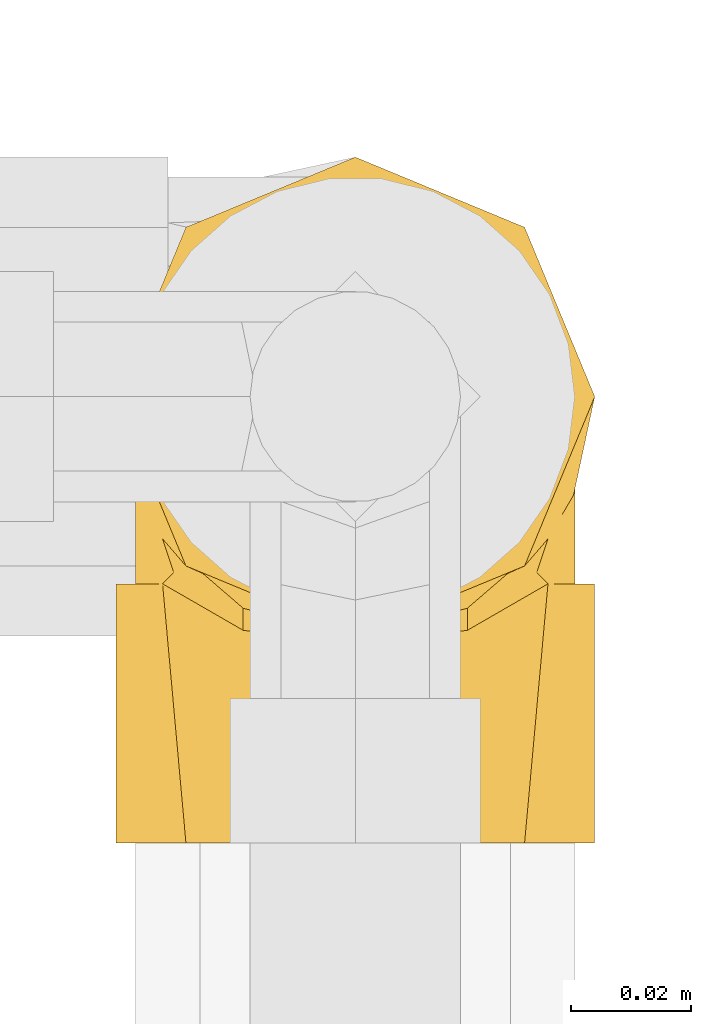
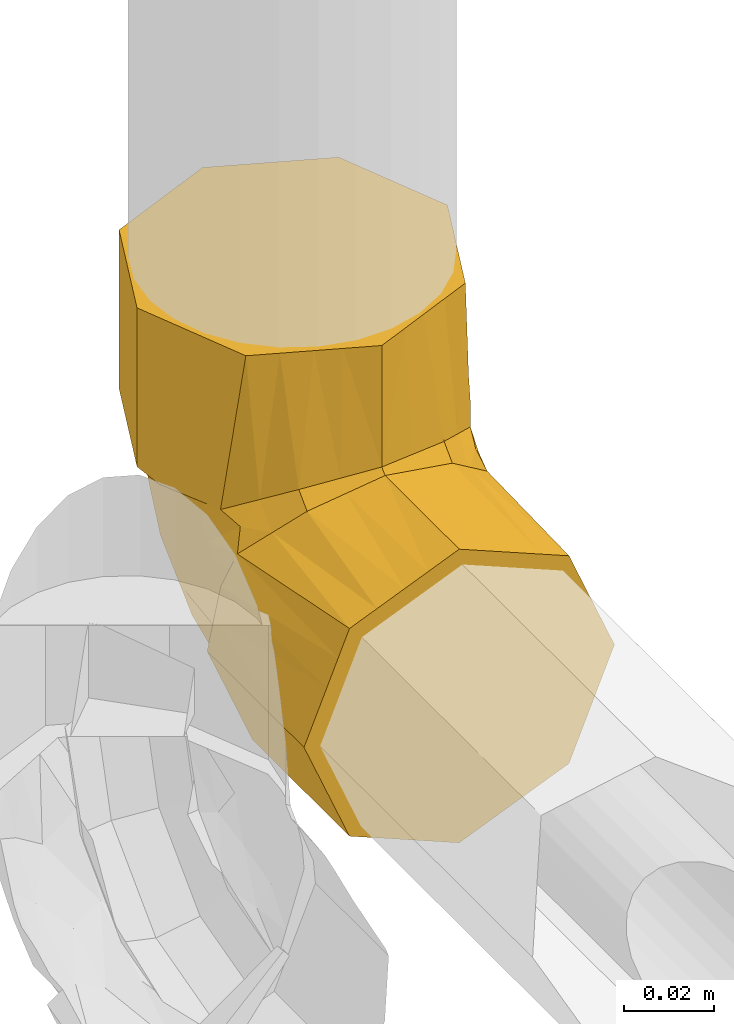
# One storey, part 269 of 652: 1 covering.
"""IFC2X3 building model written with IfcOpenShell, lengths in millimetres."""

import ifcopenshell
import ifcopenshell.guid

model = None  # the IFC model being written
_history = None  # IfcOwnerHistory: only IFC2X3 demands one
_inside = {}  # id of a spatial element -> (the spatial element, [elements in it])
_under = {}  # id of a project, library or spatial element -> (it, [spatial elements below it])
_declared = {}  # id of a project -> (the project, [libraries it declares])
_typed = {}  # id of a type object -> (the type object, [elements of that type])
_made_of = {}  # id of a material, layer set ... -> (it, [elements and type objects made of it])


def new_model(schema):
    """Start an empty IFC model of exactly this schema.

    Asked for "IFC4X3", IfcOpenShell would pick the latest addendum, in which some entities
    have other attributes; the version numbers below select the first issue.
    IFC2X3 requires an IfcOwnerHistory on every rooted entity: one is made here for all.
    """
    global model, _history
    if schema == "IFC4X3":
        model = ifcopenshell.file(schema_version=(4, 3, 0, 0))
    else:
        model = ifcopenshell.file(schema=schema)
    _inside.clear()
    _under.clear()
    _declared.clear()
    _typed.clear()
    _made_of.clear()
    _history = None
    if model.schema == "IFC2X3":
        org = make("IfcOrganization", Name="unknown")
        user = make(
            "IfcPersonAndOrganization",
            ThePerson=make("IfcPerson", FamilyName="unknown"),
            TheOrganization=org,
        )
        app = make(
            "IfcApplication",
            ApplicationDeveloper=org,
            Version="unknown",
            ApplicationFullName="unknown",
            ApplicationIdentifier="unknown",
        )
        _history = make(
            "IfcOwnerHistory",
            OwningUser=user,
            OwningApplication=app,
            ChangeAction="ADDED",
            CreationDate=0,
        )
    return model


def make(cls, **values):
    """One entity of the class cls with the attributes given. An attribute that is None is left unset."""
    return model.create_entity(
        cls, **{name: value for name, value in values.items() if value is not None}
    )


def entity(cls, *values):
    """Any entity or typed value of the class cls, its attributes in the order of the schema. None: left unset."""
    e = model.create_entity(cls)
    for i, value in enumerate(values):
        if value is not None:
            e[i] = value
    return e


def rooted(cls, **values):
    """An entity with a GlobalId (a new one), such as an element, a storey or a relation."""
    return make(cls, GlobalId=ifcopenshell.guid.new(), OwnerHistory=_history, **values)


def si_unit(unit_type, name, prefix=None):
    """IfcSIUnit, for example si_unit("LENGTHUNIT", "METRE", prefix="MILLI")."""
    return make("IfcSIUnit", UnitType=unit_type, Prefix=prefix, Name=name)


def converted_unit(unit_type, name, factor, base, dimensions=None, offset=None):
    """IfcConversionBasedUnit, such as the inch: factor (a typed value) times the base unit."""
    return make(
        "IfcConversionBasedUnit"
        if offset is None
        else "IfcConversionBasedUnitWithOffset",
        ConversionOffset=offset,
        Dimensions=None
        if dimensions is None
        else entity("IfcDimensionalExponents", *dimensions),
        UnitType=unit_type,
        Name=name,
        ConversionFactor=make(
            "IfcMeasureWithUnit", ValueComponent=factor, UnitComponent=base
        ),
    )


def assignment(units):
    """IfcUnitAssignment: the units of a project."""
    return None if units is None else make("IfcUnitAssignment", Units=units)


def point(xyz):
    """IfcCartesianPoint."""
    return None if xyz is None else make("IfcCartesianPoint", Coordinates=xyz)


def direction(xyz):
    """IfcDirection."""
    return None if xyz is None else make("IfcDirection", DirectionRatios=xyz)


def frame(location, z_axis=None, x_axis=None):
    """IfcAxis2Placement3D, a coordinate frame: its origin and axes. An axis left out is left unset."""
    return make(
        "IfcAxis2Placement3D",
        Location=point(location),
        Axis=direction(z_axis),
        RefDirection=direction(x_axis),
    )


def origin():
    """The frame at (0, 0, 0) with its axes left unset."""
    return frame((0.0, 0.0, 0.0))


def place(relative_to, where):
    """IfcLocalPlacement: puts the frame where relative to a parent placement (None: the world)."""
    return make(
        "IfcLocalPlacement", PlacementRelTo=relative_to, RelativePlacement=where
    )


def context(
    kind, dimensions, precision=None, world=None, true_north=None, identifier=None
):
    """IfcGeometricRepresentationContext, for example the 3D "Model" context."""
    return make(
        "IfcGeometricRepresentationContext",
        ContextIdentifier=identifier,
        ContextType=kind,
        CoordinateSpaceDimension=dimensions,
        Precision=precision,
        WorldCoordinateSystem=world,
        TrueNorth=true_north,
    )


def subcontext(parent, identifier, kind, view, scale=None):
    """IfcGeometricRepresentationSubContext, for example "Body" below "Model"."""
    return make(
        "IfcGeometricRepresentationSubContext",
        ContextIdentifier=identifier,
        ContextType=kind,
        ParentContext=parent,
        TargetScale=scale,
        TargetView=view,
    )


def project(units=None, contexts=None):
    """IfcProject with its units and contexts."""
    return rooted(
        "IfcProject",
        Name="project",
        RepresentationContexts=contexts,
        UnitsInContext=assignment(units),
    )


def spatial(cls, under=None, at=None, **own):
    """A site, building, storey or space (cls), placed at a placement, below another one or the project."""
    s = rooted(cls, ObjectPlacement=at, **own)
    if under is not None:
        _under.setdefault(under.id(), (under, []))[1].append(s)
    return s


def faces_of(points, faces, orient=None, outer=None):
    """IfcFace entities. A face is a list of loops; a loop is a list of indices into points, from 0.

    orient and outer hold one flag for each loop. By default every Orientation is true, the
    first loop of a face is its IfcFaceOuterBound and the others are IfcFaceBound.
    """
    made = []
    for i, loops in enumerate(faces):
        bounds = []
        for j, loop in enumerate(loops):
            is_outer = j == 0 if outer is None else outer[i][j]
            bounds.append(
                make(
                    "IfcFaceOuterBound" if is_outer else "IfcFaceBound",
                    Bound=make("IfcPolyLoop", Polygon=[points[k] for k in loop]),
                    Orientation=True if orient is None else orient[i][j],
                )
            )
        made.append(make("IfcFace", Bounds=bounds))
    return made


def faceted_brep(points, faces, orient=None, outer=None, voids=None):
    """IfcFacetedBrep: a solid bounded by flat faces; with voids (closed shells), ...WithVoids."""
    shared = [point(p) for p in points]
    hull = make("IfcClosedShell", CfsFaces=faces_of(shared, faces, orient, outer))
    if voids is None:
        return make("IfcFacetedBrep", Outer=hull)
    return make(
        "IfcFacetedBrepWithVoids",
        Outer=hull,
        Voids=[
            make(cls, CfsFaces=faces_of(shared, fs, o, b)) for cls, fs, o, b in voids
        ],
    )


def shape(context_of_items, identifier, shape_type, items):
    """IfcShapeRepresentation: the items that make up one representation, for example the "Body"."""
    return make(
        "IfcShapeRepresentation",
        ContextOfItems=context_of_items,
        RepresentationIdentifier=identifier,
        RepresentationType=shape_type,
        Items=items,
    )


def material(Name=None, Category=None):
    """IfcMaterial."""
    return make("IfcMaterial", Name=Name, Category=Category)


def made_of(thing, what):
    """Note that an element or type object is made of a material, layer set ...; save() writes the relation."""
    if what is not None:
        _made_of.setdefault(what.id(), (what, []))[1].append(thing)
    return thing


def type_object(cls, material=None, **own):
    """A type object (cls), such as IfcWallType, which elements share."""
    return made_of(rooted(cls, **own), material)


def element(
    cls,
    number,
    at=None,
    inside=None,
    cuts=None,
    type_object=None,
    material=None,
    context=None,
    identifier="Body",
    shape_type=None,
    held_by="IfcProductDefinitionShape",
    body=None,
    shapes=None,
    **own,
):
    """One element of the class cls, such as IfcWall. Its Tag is "e" and its number.

    at: its placement. inside: the storey or other place that contains it. cuts: it is an
    opening in that element (IfcRelVoidsElement). A single representation is given by context,
    identifier, shape_type and body (its items); several are given by shapes. held_by: the class
    of the entity that holds the representations. save() writes the other relations.
    """
    e = rooted(cls, Tag="e%d" % number, ObjectPlacement=at, **own)
    if body is not None:
        shapes = [shape(context, identifier, shape_type, body)]
    if shapes is not None:
        e.Representation = make(held_by, Representations=shapes)
    if inside is not None:
        _inside.setdefault(inside.id(), (inside, []))[1].append(e)
    if cuts is not None:
        rooted(
            "IfcRelVoidsElement", RelatingBuildingElement=cuts, RelatedOpeningElement=e
        )
    if type_object is not None:
        _typed.setdefault(type_object.id(), (type_object, []))[1].append(e)
    return made_of(e, material)


def aggregate(whole, parts):
    """IfcRelAggregates: a whole, such as a stair, and the parts it consists of."""
    return rooted("IfcRelAggregates", RelatingObject=whole, RelatedObjects=parts)


def save(model, path):
    """Write the relations noted so far, then the file.

    IfcRelAggregates (storeys below a building ...), IfcRelContainedInSpatialStructure (elements
    in a storey), IfcRelDefinesByType, IfcRelAssociatesMaterial and IfcRelDeclares: one each for
    every whole, place, type object, material and project.
    """
    for whole, parts in _under.values():
        aggregate(whole, parts)
    for where, things in _inside.values():
        rooted(
            "IfcRelContainedInSpatialStructure",
            RelatedElements=things,
            RelatingStructure=where,
        )
    for kind, things in _typed.values():
        rooted("IfcRelDefinesByType", RelatedObjects=things, RelatingType=kind)
    for what, things in _made_of.values():
        rooted("IfcRelAssociatesMaterial", RelatedObjects=things, RelatingMaterial=what)
    for by, libraries in _declared.values():
        rooted("IfcRelDeclares", RelatingContext=by, RelatedDefinitions=libraries)
    model.write(path)


model = new_model("IFC2X3")

# Units and contexts
model_context = context("Model", 3, precision=0.01, world=frame((0.0, 0.0, 308426.39999999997)), true_north=direction((6.123233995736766e-17, 1.0)))
plan_context = context("Plan", 3, precision=0.01, world=frame((0.0, 0.0, 308426.39999999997)), true_north=direction((6.123233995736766e-17, 1.0)))
body_context = subcontext(model_context, "Body", "Model", "MODEL_VIEW")
ifc_project = project(units=[si_unit("LENGTHUNIT", "METRE", prefix="MILLI"), si_unit("AREAUNIT", "SQUARE_METRE"), si_unit("VOLUMEUNIT", "CUBIC_METRE"), converted_unit("PLANEANGLEUNIT", "DEGREE", entity("IfcPlaneAngleMeasure", 0.017453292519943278), si_unit("PLANEANGLEUNIT", "RADIAN"), dimensions=[0, 0, 0, 0, 0, 0, 0])], contexts=[model_context, plan_context])

# Site, building, storey
site_placement = place(None, origin())
site = spatial("IfcSite", under=ifc_project, at=site_placement, Name="Default", CompositionType="ELEMENT")
building_placement = place(site_placement, origin())
building = spatial("IfcBuilding", under=site, at=building_placement, CompositionType="ELEMENT")
storey_placement = place(building_placement, frame((0.0, 0.0, 1730.6999999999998)))
storey = spatial("IfcBuildingStorey", under=building, at=storey_placement, Name="EG_Produktion_FFB", CompositionType="ELEMENT", Elevation=1730.6999999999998)

# Covering
ifc_material = material(Name="Dämmung - Armaflex-Schlauch")
covering_type = type_object("IfcCoveringType", Name="Rohrdämmung außen:Armaflex-Schlauch", PredefinedType="INSULATION")
covering_placement = place(storey_placement, frame((77838.64672776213, 69840.91574999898, 3558.646727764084)))
element("IfcCovering", 1, at=covering_placement, inside=storey, type_object=covering_type, material=ifc_material, Name="Rohrdämmung außen:Armaflex-Schlauch", ObjectType="Rohrdämmung außen:Armaflex-Schlauch", PredefinedType="INSULATION", context=body_context, shape_type="Brep", body=[
    faceted_brep([(76.62300673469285, 60.144076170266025, 72.43177223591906), (77.08951820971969, 64.13185283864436, 72.43177223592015), (77.81577223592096, 70.33992920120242, 72.43177223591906), (74.37467999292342, 77.97579246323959, 72.43177223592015), (70.93358774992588, 85.61165572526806, 72.43177223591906), (67.7065704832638, 92.7724816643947, 72.43177223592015), (64.47955321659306, 99.933307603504, 72.43177223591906), (52.91641272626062, 104.1842912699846, 72.43177223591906), (41.35327223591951, 108.43527493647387, 72.43177223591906), (34.141847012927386, 104.78880055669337, 72.43177223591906), (26.930421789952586, 101.14232617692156, 72.43177223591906), (19.71899656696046, 97.49585179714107, 72.43177223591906), (12.507571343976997, 93.84937741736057, 72.43177223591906), (10.125063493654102, 86.49570507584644, 72.43177223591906), (7.507917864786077, 78.41781713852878, 72.43177223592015), (4.890772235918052, 70.33992920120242, 72.43177223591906), (5.617026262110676, 64.13185283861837, 72.43177223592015), (6.083537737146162, 60.144076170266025, 72.43177223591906), (7.721836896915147, 55.31227974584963, 72.43177223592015), (9.36013605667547, 50.48048332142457, 72.43177223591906), (5.923100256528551, 58.09790960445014, 72.43177223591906), (2.486064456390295, 65.7153358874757, 72.43177223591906), (1.5952722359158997, 74.08425000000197, 72.43177223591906), (4.907228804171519, 82.08002046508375, 72.43177223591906), (7.417696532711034, 88.14082570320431, 72.43177223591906), (10.3289086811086, 95.16911355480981, 72.43177223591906), (13.240120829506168, 102.19740140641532, 72.43177223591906), (20.26840868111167, 105.10861355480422, 72.43177223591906), (27.29669653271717, 108.01982570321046, 72.43177223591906), (34.32498438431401, 110.93103785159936, 72.43177223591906), (41.35327223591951, 113.84224999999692, 72.43177223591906), (49.349042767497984, 110.53029340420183, 72.43177223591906), (55.409847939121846, 108.01982570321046, 72.43177223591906), (62.43813579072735, 105.10861355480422, 72.43177223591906), (69.46642364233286, 102.19740140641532, 72.43177223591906), (72.37763579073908, 95.16911355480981, 72.43177223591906), (75.28884793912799, 88.14082570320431, 72.43177223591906), (77.79931619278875, 82.0800191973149, 72.43177223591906), (81.11127223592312, 74.08425000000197, 72.43177223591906), (79.35209785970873, 65.90827541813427, 72.43177223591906), (77.59292348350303, 57.73230083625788, 72.43177223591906), (73.34640841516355, 50.48048332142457, 72.43177223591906), (74.98470757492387, 55.31227974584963, 72.43177223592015), (4.506484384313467, 67.05596214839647, 115.43752223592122), (7.417696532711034, 60.02767429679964, 115.43752223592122), (10.328908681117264, 52.99938644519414, 115.43752223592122), (13.240120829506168, 45.971098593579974, 115.43752223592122), (20.26840868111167, 43.05988644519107, 115.43752223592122), (27.29669653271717, 40.1486742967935, 115.43752223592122), (33.35750154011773, 37.63820666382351, 115.43752223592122), (41.35327223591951, 34.32624999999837, 115.43752223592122), (49.34904130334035, 37.63820598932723, 115.43752223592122), (55.409847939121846, 40.1486742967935, 115.43752223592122), (62.43813579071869, 43.05988644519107, 115.43752223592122), (69.46642364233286, 45.971098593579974, 115.43752223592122), (72.37763579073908, 52.99938644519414, 115.43752223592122), (75.28884793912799, 60.02767429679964, 115.43752223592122), (78.20006008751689, 67.05596214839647, 115.43752223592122), (81.11127223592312, 74.08425000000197, 115.43752223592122), (78.20006008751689, 81.11253785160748, 115.43752223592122), (75.28884793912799, 88.14082570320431, 115.43752223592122), (72.37763579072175, 95.16911355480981, 115.43752223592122), (69.46642364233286, 102.19740140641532, 115.43752223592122), (62.43813579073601, 105.10861355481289, 115.43752223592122), (55.409847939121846, 108.01982570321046, 115.43752223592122), (48.38156008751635, 110.93103785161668, 115.43752223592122), (41.35327223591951, 113.84224999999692, 115.43752223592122), (34.32498438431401, 110.93103785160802, 115.43752223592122), (27.29669653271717, 108.01982570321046, 115.43752223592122), (20.26840868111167, 105.10861355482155, 115.43752223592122), (13.240120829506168, 102.19740140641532, 115.43752223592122), (8.219185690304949, 90.0757916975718, 115.43752223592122), (4.907228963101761, 82.08002084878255, 115.43752223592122), (1.5952722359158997, 74.08425000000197, 115.43752223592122), (16.057183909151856, 44.71268924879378, 76.29438305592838), (41.35327223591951, 34.32624999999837, 82.55017689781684), (32.05375199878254, 36.63557258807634, 81.35358538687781), (22.754231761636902, 38.94489517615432, 80.15699387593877), (27.40399188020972, 37.79023388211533, 80.75528963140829), (66.64936056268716, 44.71268924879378, 76.29438305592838), (50.65279247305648, 36.63557258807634, 81.35358538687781), (59.952312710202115, 38.94489517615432, 80.15699387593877), (45.661736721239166, 35.39615835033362, 81.99579646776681), (81.11127223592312, 43.00574999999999, 41.35327223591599), (77.7993156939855, 43.00575000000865, 33.35750183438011), (75.28884793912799, 43.00574999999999, 27.296696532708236), (72.37763579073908, 43.00574999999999, 20.2684086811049), (69.46642364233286, 43.00574999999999, 13.240120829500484), (62.43813579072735, 43.00575000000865, 10.328908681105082), (55.409847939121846, 43.00574999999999, 7.4176965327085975), (49.34904137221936, 43.00574999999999, 4.907228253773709), (41.35327223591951, 43.00574999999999, 1.595272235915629), (33.357502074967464, 43.00574999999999, 4.907228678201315), (27.29669653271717, 43.00574999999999, 7.4176965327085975), (20.26840868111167, 43.00574999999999, 10.328908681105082), (13.240120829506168, 43.00574999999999, 13.240120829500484), (10.3289086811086, 43.00574999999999, 20.2684086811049), (7.417696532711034, 43.00574999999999, 27.296696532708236), (4.506484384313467, 43.00574999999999, 34.32498438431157), (1.5952722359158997, 43.00574999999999, 41.35327223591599), (3.3544632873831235, 43.00574999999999, 49.52928377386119), (5.113654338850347, 43.00574999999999, 57.705295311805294), (9.36013605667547, 43.00574999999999, 64.95703891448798), (7.721836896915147, 43.00574999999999, 60.12524249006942), (6.083537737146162, 43.00574999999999, 55.29344606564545), (5.617026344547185, 43.00575000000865, 51.305670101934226), (5.253899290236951, 43.00574999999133, 48.20163156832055), (4.890772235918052, 43.00574999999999, 45.09759303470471), (8.22731807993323, 43.00574999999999, 37.69714258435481), (11.56386392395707, 43.00574999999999, 30.296692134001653), (14.900409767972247, 43.00574999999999, 22.896241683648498), (18.236955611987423, 43.00574999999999, 15.495791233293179), (24.01603476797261, 43.00574999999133, 13.372405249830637), (29.7951139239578, 43.00574999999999, 11.24901926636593), (41.35327223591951, 43.00574999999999, 7.00224729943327), (48.56686113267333, 43.00574999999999, 10.651622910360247), (55.78045002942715, 43.00574999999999, 14.300998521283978), (62.99403892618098, 43.00574999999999, 17.950374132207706), (70.2076278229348, 43.00574999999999, 21.599749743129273), (72.10966392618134, 43.00574999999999, 27.47421056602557), (74.01170002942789, 43.00574999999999, 33.3486713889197), (77.81577223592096, 43.00574999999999, 45.097593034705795), (77.45264518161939, 43.00574999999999, 48.20163156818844), (77.08951812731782, 43.00574999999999, 51.30567010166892), (76.62300673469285, 43.00574999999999, 55.29344606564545), (74.98470757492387, 43.00574999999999, 60.12524249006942), (73.34640841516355, 43.00574999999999, 64.95703891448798), (76.78343970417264, 43.00574999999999, 57.33963358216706), (80.22047099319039, 43.00574999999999, 49.72222824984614), (4.506484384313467, 0.0, 34.32498438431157), (7.417696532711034, 0.0, 27.296696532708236), (10.3289086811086, 0.0, 20.2684086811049), (13.240120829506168, 0.0, 13.240120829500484), (25.361730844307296, 0.0, 8.219185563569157), (33.35750154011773, 0.0, 4.907228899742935), (41.35327223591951, 0.0, 1.595272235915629), (48.38156008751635, 0.0, 4.506484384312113), (55.409847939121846, 0.0, 7.4176965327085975), (62.43813579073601, 0.0, 10.328908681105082), (69.46642364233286, 0.0, 13.240120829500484), (72.37763579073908, 0.0, 20.2684086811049), (75.28884793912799, 0.0, 27.296696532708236), (78.20006008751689, 0.0, 34.32498438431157), (81.11127223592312, 0.0, 41.35327223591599), (78.20006008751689, 0.0, 48.381560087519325), (75.28884793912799, 0.0, 55.40984793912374), (72.37763579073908, 0.0, 62.43813579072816), (69.46642364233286, 0.0, 69.46642364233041), (62.43813579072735, 0.0, 72.37763579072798), (55.409847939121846, 0.0, 75.28884793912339), (49.34904309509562, 0.0, 77.79931550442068), (41.35327223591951, 0.0, 81.11127223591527), (33.357503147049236, 0.0, 77.79931623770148), (27.296696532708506, 0.0, 75.28884793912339), (20.26840868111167, 0.0, 72.3776357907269), (13.240120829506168, 0.0, 69.46642364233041), (10.3289086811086, 0.0, 62.43813579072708), (7.417696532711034, 0.0, 55.40984793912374), (4.9072289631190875, 0.0, 49.3490430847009), (1.5952722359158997, 0.0, 41.35327223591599), (41.35327223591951, 32.88734533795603, 81.11127223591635), (32.05375199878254, 34.08393684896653, 78.80194964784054), (22.754231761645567, 35.28052835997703, 76.49262705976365), (32.736343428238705, 33.99610617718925, 78.9714555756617), (16.057183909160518, 39.14313917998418, 70.72483298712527), (66.6493605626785, 39.14313917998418, 70.72483298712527), (50.65279247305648, 34.08393684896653, 78.80194964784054), (59.95231271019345, 35.28052835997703, 76.49262705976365), (49.9702010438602, 33.9961061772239, 78.97145557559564), (45.66173663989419, 33.44172575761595, 80.0413639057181), (12.124299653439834, 58.166290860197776, 28.191105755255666), (11.869467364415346, 86.24367512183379, 56.173355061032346), (8.37855585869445, 75.43570574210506, 50.643774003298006), (4.890772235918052, 63.77170858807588, 60.99290399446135), (5.704393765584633, 71.00962303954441, 57.90061631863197), (5.817790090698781, 60.33082901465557, 45.89785871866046), (14.285355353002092, 74.69227230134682, 36.820010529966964), (17.28695187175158, 90.57284197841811, 51.8020703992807), (41.35327223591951, 77.92193606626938, 23.738422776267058), (33.28725759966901, 68.63591410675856, 18.34308673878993), (32.93381303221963, 87.88495600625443, 34.51769201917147), (41.35327223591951, 100.80694021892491, 60.2584348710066), (31.928717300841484, 100.52515800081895, 53.73292005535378), (20.52698465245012, 79.21479866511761, 33.524488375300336), (4.890772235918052, 45.389360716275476, 46.9221287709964), (4.890772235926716, 47.77297143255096, 48.74666450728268), (4.890772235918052, 52.54019286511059, 52.39573597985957), (4.89077223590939, 58.15595072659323, 56.69431998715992), (17.193351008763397, 60.494157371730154, 23.185833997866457), (23.505882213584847, 90.87816522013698, 44.19289890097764), (22.489971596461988, 98.10654117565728, 58.02641308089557), (24.51843234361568, 69.6013927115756, 22.770111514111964), (26.85666627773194, 81.49463540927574, 30.82495311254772), (41.35327223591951, 60.46384303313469, 15.370335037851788), (41.35327223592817, 59.30685202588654, 14.815761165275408), (41.35327223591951, 93.17860550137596, 48.08509750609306), (41.35327223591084, 89.44118018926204, 42.12089419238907), (41.35327223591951, 85.55027078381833, 35.91176014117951), (26.96209309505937, 57.68461622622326, 14.936716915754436), (8.907205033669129, 62.34563514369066, 36.83398515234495), (41.35327223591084, 98.9382275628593, 57.276333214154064), (4.890772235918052, 67.32420901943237, 67.17975226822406), (5.540058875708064, 59.547719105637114, 66.8260998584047), (6.751916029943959, 54.28952280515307, 67.53281751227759), (41.35327223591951, 33.63371593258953, 81.80380630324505), (6.670824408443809, 51.45915617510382, 63.97836554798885), (11.210836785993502, 44.908883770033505, 70.52863875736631), (6.751916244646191, 47.904704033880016, 61.14799970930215), (5.555021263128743, 48.5166417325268, 55.918821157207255), (77.16648559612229, 59.54771910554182, 66.8260998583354), (77.81577223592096, 67.32420901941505, 67.17975226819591), (71.49570746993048, 44.90888341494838, 70.52863885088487), (76.03571971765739, 51.45915542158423, 63.978366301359), (75.95462843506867, 54.289522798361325, 67.53281753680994), (77.81577223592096, 58.15595072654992, 56.69431998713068), (75.95462822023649, 47.904704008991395, 61.14799971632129), (77.15152320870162, 48.51664173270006, 55.91882115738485), (77.81577223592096, 47.77297143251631, 48.74666450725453), (77.81577223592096, 63.77170858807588, 60.99290399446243), (77.81577223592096, 45.389360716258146, 46.922128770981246), (77.81577223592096, 52.54019286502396, 52.395735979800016), (74.80598737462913, 77.88884430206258, 55.82565961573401), (71.5622524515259, 85.68390575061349, 57.28959429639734), (75.79919171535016, 57.20212685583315, 39.02450620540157), (50.8847120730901, 85.21783817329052, 32.063467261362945), (65.94296495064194, 76.99963686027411, 35.56661217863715), (73.58946657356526, 68.28685011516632, 40.993703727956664), (68.10768824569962, 64.58632217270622, 28.53498924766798), (76.81449307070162, 64.72447259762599, 49.33889122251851), (76.81985109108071, 73.0393897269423, 59.448940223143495), (67.36791849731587, 85.65544995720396, 47.62726014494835), (60.18508487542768, 75.83338581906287, 28.791268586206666), (51.08904624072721, 65.65295551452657, 17.08473225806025), (60.01109950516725, 60.45142062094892, 18.640175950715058), (73.08709853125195, 57.30670812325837, 32.102457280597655), (58.13792656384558, 95.65270419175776, 50.634728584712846), (61.63866824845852, 86.33050767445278, 40.67615020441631), (65.97235995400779, 94.01862068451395, 59.442278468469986), (49.62375736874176, 97.03201021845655, 46.78958221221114)], [[[0, 1, 2, 3, 4, 5, 6, 7, 8, 9, 10, 11, 12, 13, 14, 15, 16, 17, 18, 19, 20, 21, 22, 23, 24, 25, 26, 27, 28, 29, 30, 31, 32, 33, 34, 35, 36, 37, 38, 39, 40, 41, 42]], [[43, 44, 45, 46, 47, 48, 49, 50, 51, 52, 53, 54, 55, 56, 57, 58, 59, 60, 61, 62, 63, 64, 65, 66, 67, 68, 69, 70, 71, 72, 73]], [[47, 46, 74]], [[75, 50, 49]], [[76, 75, 49]], [[48, 77, 78, 76]], [[47, 74, 77]], [[44, 20, 45]], [[43, 21, 44]], [[46, 19, 74]], [[77, 48, 47]], [[44, 21, 20]], [[43, 22, 21]], [[48, 76, 49]], [[43, 73, 22]], [[45, 20, 19]], [[19, 46, 45]], [[23, 22, 73, 72, 71, 70, 26, 25, 24]], [[26, 70, 69, 68, 67, 66, 30, 29, 28, 27]], [[38, 37, 36, 35, 34, 62, 61, 60, 59, 58]], [[30, 66, 65, 64, 63, 62, 34, 33, 32, 31]], [[56, 40, 39]], [[53, 79, 54]], [[39, 57, 56]], [[41, 55, 54]], [[40, 55, 41]], [[80, 52, 51]], [[52, 80, 81]], [[58, 57, 38]], [[51, 75, 82, 80]], [[38, 57, 39]], [[79, 53, 81]], [[55, 40, 56]], [[51, 50, 75]], [[53, 52, 81]], [[79, 41, 54]], [[83, 84, 85, 86, 87, 88, 89, 90, 91, 92, 93, 94, 95, 96, 97, 98, 99, 100, 101, 102, 103, 104, 105, 106, 107, 108, 109, 110, 111, 112, 113, 114, 115, 116, 117, 118, 119, 120, 121, 122, 123, 124, 125, 126, 127, 128]], [[129, 130, 131, 132, 133, 134, 135, 136, 137, 138, 139, 140, 141, 142, 143, 144, 145, 146, 147, 148, 149, 150, 151, 152, 153, 154, 155, 156, 157, 158, 159]], [[135, 134, 133, 132, 95, 94, 93, 92, 91]], [[95, 132, 131, 130, 129, 159, 99, 98, 97, 96]], [[159, 158, 157, 100]], [[101, 156, 102]], [[99, 159, 100]], [[101, 100, 157]], [[152, 151, 160]], [[102, 156, 155]], [[153, 161, 162]], [[161, 153, 152]], [[152, 160, 163, 161]], [[154, 164, 155]], [[164, 154, 162]], [[156, 101, 157]], [[154, 153, 162]], [[164, 102, 155]], [[148, 147, 165]], [[149, 166, 150]], [[166, 149, 167]], [[160, 151, 150]], [[148, 165, 167]], [[145, 127, 146]], [[144, 128, 145]], [[147, 126, 165]], [[167, 149, 148]], [[145, 128, 127]], [[144, 83, 128]], [[150, 166, 168, 169, 160]], [[144, 143, 83]], [[146, 127, 126]], [[126, 147, 146]], [[91, 90, 89, 88, 87, 139, 138, 137, 136, 135]], [[141, 140, 139, 87, 86, 85, 84, 83, 143, 142]], [[109, 170, 110]], [[13, 171, 172]], [[14, 13, 172]], [[173, 174, 175]], [[176, 171, 177]], [[15, 14, 174]], [[178, 179, 180]], [[9, 181, 182]], [[172, 175, 174]], [[13, 12, 171]], [[12, 11, 177]], [[176, 177, 183]], [[175, 107, 184, 185, 186, 187, 173]], [[188, 170, 176]], [[176, 172, 171]], [[189, 190, 182]], [[11, 10, 190]], [[177, 11, 190]], [[170, 188, 110]], [[191, 183, 192]], [[179, 178, 193, 194]], [[182, 190, 10]], [[189, 182, 180]], [[177, 190, 189]], [[182, 10, 9]], [[182, 195, 180]], [[177, 189, 183]], [[177, 171, 12]], [[180, 195, 196, 197, 178]], [[113, 179, 194]], [[112, 111, 198, 113]], [[198, 111, 188]], [[194, 114, 113]], [[179, 191, 192]], [[199, 175, 172]], [[199, 108, 175]], [[172, 176, 199]], [[188, 111, 110]], [[199, 170, 109]], [[183, 188, 176]], [[108, 199, 109]], [[188, 191, 198]], [[108, 107, 175]], [[176, 170, 199]], [[192, 189, 180]], [[188, 183, 191]], [[189, 192, 183]], [[179, 192, 180]], [[181, 9, 8]], [[182, 181, 200, 195]], [[191, 179, 198]], [[179, 113, 198]], [[174, 173, 201, 15]], [[172, 174, 14]], [[173, 202, 201]], [[173, 187, 203]], [[18, 203, 19]], [[201, 17, 16, 15]], [[204, 76, 163]], [[74, 164, 162, 77]], [[163, 76, 78, 77, 162, 161]], [[205, 102, 206]], [[206, 164, 74]], [[106, 105, 104, 185, 184, 107]], [[205, 207, 102]], [[186, 185, 208, 187]], [[204, 75, 76]], [[163, 160, 204]], [[205, 206, 19]], [[164, 206, 102]], [[203, 205, 19]], [[19, 206, 74]], [[201, 202, 17]], [[17, 202, 18]], [[203, 202, 173]], [[18, 202, 203]], [[102, 207, 103]], [[103, 208, 104]], [[207, 205, 187]], [[208, 103, 207]], [[208, 185, 104]], [[187, 208, 207]], [[203, 187, 205]], [[204, 160, 169]], [[209, 210, 0]], [[169, 168, 166, 167, 81, 80, 82]], [[41, 211, 212]], [[1, 0, 210, 2]], [[213, 212, 214]], [[204, 169, 82]], [[79, 165, 211]], [[126, 125, 215]], [[212, 211, 126]], [[204, 82, 75]], [[167, 165, 79, 81]], [[216, 124, 217]], [[218, 209, 213]], [[122, 121, 219, 217, 124, 123]], [[41, 79, 211]], [[211, 165, 126]], [[209, 0, 42]], [[125, 124, 216]], [[126, 215, 212]], [[125, 216, 215]], [[220, 214, 216, 217]], [[213, 42, 41]], [[212, 213, 41]], [[210, 209, 218]], [[214, 212, 215]], [[209, 42, 213]], [[215, 216, 214]], [[218, 213, 214]], [[4, 221, 222]], [[223, 121, 120]], [[224, 178, 197, 196]], [[225, 226, 227]], [[228, 226, 221]], [[229, 218, 228]], [[222, 226, 230]], [[231, 232, 224]], [[3, 229, 221]], [[233, 232, 231]], [[234, 223, 120]], [[229, 2, 210, 218]], [[224, 235, 236]], [[4, 3, 221]], [[228, 218, 214, 220, 217, 219, 121]], [[237, 222, 230]], [[6, 235, 7]], [[235, 6, 237]], [[238, 200, 7]], [[228, 223, 226]], [[224, 238, 235]], [[234, 226, 223]], [[227, 117, 233]], [[193, 232, 115]], [[224, 232, 178]], [[115, 114, 194, 193]], [[235, 237, 236]], [[238, 224, 196]], [[226, 222, 221]], [[222, 237, 5]], [[5, 237, 6]], [[5, 4, 222]], [[237, 230, 236]], [[7, 200, 181, 8]], [[7, 235, 238]], [[238, 196, 195, 200]], [[227, 118, 117]], [[193, 178, 232]], [[231, 236, 225]], [[233, 117, 116]], [[232, 233, 116]], [[227, 233, 231]], [[229, 3, 2]], [[228, 221, 229]], [[121, 223, 228]], [[119, 118, 234, 120]], [[234, 118, 227]], [[227, 226, 234]], [[232, 116, 115]], [[225, 236, 230]], [[224, 236, 231]], [[226, 225, 230]], [[231, 225, 227]]]),
])

save(model, "model.ifc")
